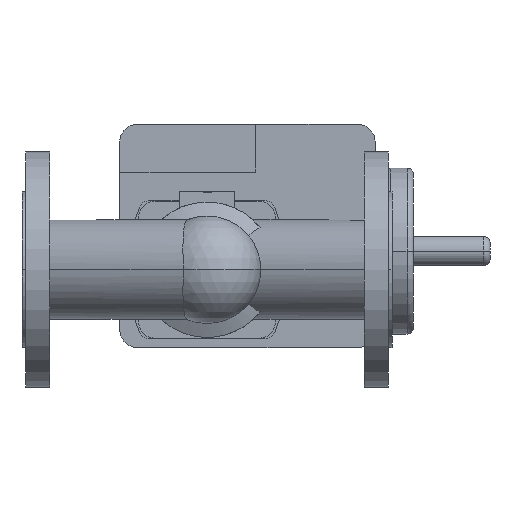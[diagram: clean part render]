
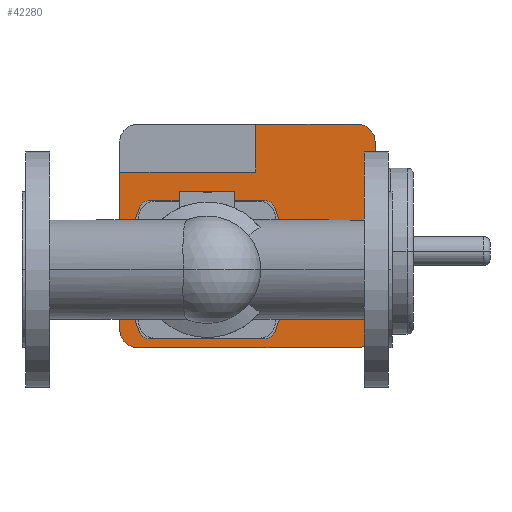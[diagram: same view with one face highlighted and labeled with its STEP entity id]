
A CAD part, front view. The second image highlights one B-rep face of the part: STEP entity #42280.
In plain terms, the highlighted planar face has unit normal (0, -1, 0).
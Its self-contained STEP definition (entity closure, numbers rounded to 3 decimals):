
#40100=CARTESIAN_POINT('',(189.784,406.,54.2));
#40110=VERTEX_POINT('',#40100);
#40140=CARTESIAN_POINT('',(189.784,406.,45.2));
#40150=DIRECTION('',(0.,1.,0.));
#40160=DIRECTION('',(0.,0.,1.));
#40170=AXIS2_PLACEMENT_3D('',#40140,#40150,#40160);
#40180=CIRCLE('',#40170,9.);
#40190=CARTESIAN_POINT('',(197.942,406.,49.002));
#40200=VERTEX_POINT('',#40190);
#40210=EDGE_CURVE('',#40110,#40200,#40180,.T.);
#40390=CARTESIAN_POINT('',(92.8,406.,0.));
#40400=DIRECTION('',(0.,1.,0.));
#40410=DIRECTION('',(0.906,0.,0.422));
#40420=AXIS2_PLACEMENT_3D('',#40390,#40400,#40410);
#40430=CIRCLE('',#40420,116.);
#40440=CARTESIAN_POINT('',(197.942,406.,-49.002));
#40450=VERTEX_POINT('',#40440);
#40460=EDGE_CURVE('',#40200,#40450,#40430,.T.);
#40640=CARTESIAN_POINT('',(189.784,406.,-45.2));
#40650=DIRECTION('',(0.,1.,0.));
#40660=DIRECTION('',(0.906,0.,-0.422));
#40670=AXIS2_PLACEMENT_3D('',#40640,#40650,#40660);
#40680=CIRCLE('',#40670,9.);
#40690=CARTESIAN_POINT('',(189.784,406.,-54.2));
#40700=VERTEX_POINT('',#40690);
#40710=EDGE_CURVE('',#40450,#40700,#40680,.T.);
#40890=CARTESIAN_POINT('',(167.392,406.,-54.2));
#40900=DIRECTION('',(-1.,0.,0.));
#40910=VECTOR('',#40900,1.);
#40920=LINE('',#40890,#40910);
#40930=CARTESIAN_POINT('',(100.216,406.,-54.2));
#40940=VERTEX_POINT('',#40930);
#40950=EDGE_CURVE('',#40700,#40940,#40920,.T.);
#41070=CARTESIAN_POINT('',(145.,406.,0.));
#41080=DIRECTION('',(0.,1.,0.));
#41090=DIRECTION('',(0.,0.,1.));
#41100=AXIS2_PLACEMENT_3D('',#41070,#41080,#41090);
#41110=PLANE('',#41100);
#41120=CARTESIAN_POINT('',(197.2,406.,0.));
#41130=DIRECTION('',(0.,1.,0.));
#41140=DIRECTION('',(-0.906,0.,-0.422));
#41150=AXIS2_PLACEMENT_3D('',#41120,#41130,#41140);
#41160=CIRCLE('',#41150,116.);
#41170=CARTESIAN_POINT('',(92.058,406.,-49.002));
#41180=VERTEX_POINT('',#41170);
#41190=CARTESIAN_POINT('',(92.058,406.,49.002));
#41200=VERTEX_POINT('',#41190);
#41210=EDGE_CURVE('',#41180,#41200,#41160,.T.);
#41220=ORIENTED_EDGE('',*,*,#41210,.T.);
#41230=CARTESIAN_POINT('',(100.216,406.,-45.2));
#41240=DIRECTION('',(0.,1.,0.));
#41250=DIRECTION('',(0.,0.,-1.));
#41260=AXIS2_PLACEMENT_3D('',#41230,#41240,#41250);
#41270=CIRCLE('',#41260,9.);
#41280=EDGE_CURVE('',#40940,#41180,#41270,.T.);
#41290=ORIENTED_EDGE('',*,*,#41280,.T.);
#41300=ORIENTED_EDGE('',*,*,#40950,.T.);
#41310=ORIENTED_EDGE('',*,*,#40710,.T.);
#41320=ORIENTED_EDGE('',*,*,#40460,.T.);
#41330=ORIENTED_EDGE('',*,*,#40210,.T.);
#41340=CARTESIAN_POINT('',(122.608,406.,54.2));
#41350=DIRECTION('',(1.,0.,0.));
#41360=VECTOR('',#41350,1.);
#41370=LINE('',#41340,#41360);
#41380=CARTESIAN_POINT('',(100.216,406.,54.2));
#41390=VERTEX_POINT('',#41380);
#41400=EDGE_CURVE('',#41390,#40110,#41370,.T.);
#41410=ORIENTED_EDGE('',*,*,#41400,.T.);
#41420=CARTESIAN_POINT('',(100.216,406.,45.2));
#41430=DIRECTION('',(0.,1.,0.));
#41440=DIRECTION('',(-0.906,0.,0.422));
#41450=AXIS2_PLACEMENT_3D('',#41420,#41430,#41440);
#41460=CIRCLE('',#41450,9.);
#41470=EDGE_CURVE('',#41200,#41390,#41460,.T.);
#41480=ORIENTED_EDGE('',*,*,#41470,.T.);
#41490=EDGE_LOOP('',(#41480,#41410,#41330,#41320,#41310,#41300,#41290,
#41220));
#41500=FACE_BOUND('',#41490,.T.);
#41510=CARTESIAN_POINT('',(183.1,406.,38.25));
#41520=DIRECTION('',(0.,0.,-1.));
#41530=VECTOR('',#41520,1.);
#41540=LINE('',#41510,#41530);
#41550=CARTESIAN_POINT('',(183.1,406.,114.));
#41560=VERTEX_POINT('',#41550);
#41570=CARTESIAN_POINT('',(183.1,406.,76.5));
#41580=VERTEX_POINT('',#41570);
#41590=EDGE_CURVE('',#41560,#41580,#41540,.T.);
#41600=ORIENTED_EDGE('',*,*,#41590,.T.);
#41610=CARTESIAN_POINT('',(90.6,406.,114.));
#41620=DIRECTION('',(1.,0.,0.));
#41630=VECTOR('',#41620,1.);
#41640=LINE('',#41610,#41630);
#41650=CARTESIAN_POINT('',(262.6,406.,114.));
#41660=VERTEX_POINT('',#41650);
#41670=EDGE_CURVE('',#41560,#41660,#41640,.T.);
#41680=ORIENTED_EDGE('',*,*,#41670,.F.);
#41690=CARTESIAN_POINT('',(262.6,406.,100.));
#41700=DIRECTION('',(0.,1.,0.));
#41710=DIRECTION('',(0.,0.,1.));
#41720=AXIS2_PLACEMENT_3D('',#41690,#41700,#41710);
#41730=CIRCLE('',#41720,14.);
#41740=CARTESIAN_POINT('',(276.6,406.,100.));
#41750=VERTEX_POINT('',#41740);
#41760=EDGE_CURVE('',#41660,#41750,#41730,.T.);
#41770=ORIENTED_EDGE('',*,*,#41760,.F.);
#41780=CARTESIAN_POINT('',(276.6,406.,100.));
#41790=DIRECTION('',(0.,0.,-1.));
#41800=VECTOR('',#41790,1.);
#41810=LINE('',#41780,#41800);
#41820=CARTESIAN_POINT('',(276.6,406.,-47.));
#41830=VERTEX_POINT('',#41820);
#41840=EDGE_CURVE('',#41750,#41830,#41810,.T.);
#41850=ORIENTED_EDGE('',*,*,#41840,.F.);
#41860=CARTESIAN_POINT('',(262.6,406.,-47.));
#41870=DIRECTION('',(0.,1.,0.));
#41880=DIRECTION('',(1.,0.,0.));
#41890=AXIS2_PLACEMENT_3D('',#41860,#41870,#41880);
#41900=CIRCLE('',#41890,14.);
#41910=CARTESIAN_POINT('',(262.6,406.,-61.));
#41920=VERTEX_POINT('',#41910);
#41930=EDGE_CURVE('',#41830,#41920,#41900,.T.);
#41940=ORIENTED_EDGE('',*,*,#41930,.F.);
#41950=CARTESIAN_POINT('',(262.6,406.,-61.));
#41960=DIRECTION('',(-1.,0.,0.));
#41970=VECTOR('',#41960,1.);
#41980=LINE('',#41950,#41970);
#41990=CARTESIAN_POINT('',(90.6,406.,-61.));
#42000=VERTEX_POINT('',#41990);
#42010=EDGE_CURVE('',#41920,#42000,#41980,.T.);
#42020=ORIENTED_EDGE('',*,*,#42010,.F.);
#42030=CARTESIAN_POINT('',(90.6,406.,-47.));
#42040=DIRECTION('',(0.,1.,0.));
#42050=DIRECTION('',(0.,0.,-1.));
#42060=AXIS2_PLACEMENT_3D('',#42030,#42040,#42050);
#42070=CIRCLE('',#42060,14.);
#42080=CARTESIAN_POINT('',(76.6,406.,-47.));
#42090=VERTEX_POINT('',#42080);
#42100=EDGE_CURVE('',#42000,#42090,#42070,.T.);
#42110=ORIENTED_EDGE('',*,*,#42100,.F.);
#42120=CARTESIAN_POINT('',(76.6,406.,-47.));
#42130=DIRECTION('',(0.,0.,1.));
#42140=VECTOR('',#42130,1.);
#42150=LINE('',#42120,#42140);
#42160=CARTESIAN_POINT('',(76.6,406.,76.5));
#42170=VERTEX_POINT('',#42160);
#42180=EDGE_CURVE('',#42090,#42170,#42150,.T.);
#42190=ORIENTED_EDGE('',*,*,#42180,.F.);
#42200=CARTESIAN_POINT('',(110.3,406.,76.5));
#42210=DIRECTION('',(-1.,0.,0.));
#42220=VECTOR('',#42210,1.);
#42230=LINE('',#42200,#42220);
#42240=EDGE_CURVE('',#41580,#42170,#42230,.T.);
#42250=ORIENTED_EDGE('',*,*,#42240,.T.);
#42260=EDGE_LOOP('',(#42250,#42190,#42110,#42020,#41940,#41850,#41770,
#41680,#41600));
#42270=FACE_OUTER_BOUND('',#42260,.T.);
#42280=ADVANCED_FACE('',(#41500,#42270),#41110,.F.);
